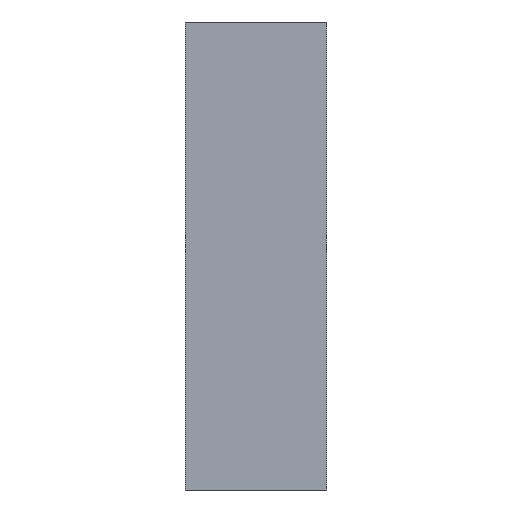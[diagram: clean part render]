
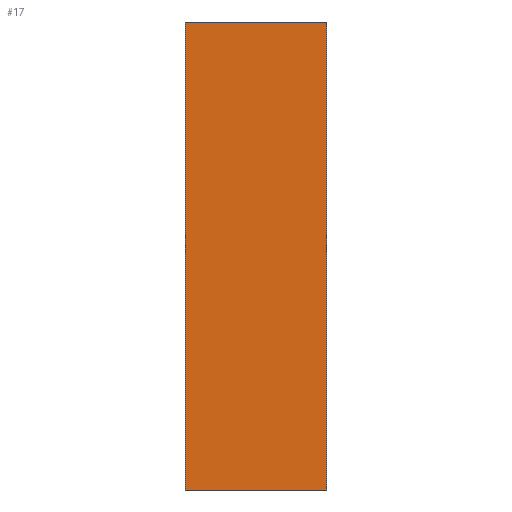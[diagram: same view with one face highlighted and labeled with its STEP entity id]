
A CAD part, left-side view. The second image highlights one B-rep face of the part: STEP entity #17.
In plain terms, the highlighted planar face has unit normal (-1, 0, 0).
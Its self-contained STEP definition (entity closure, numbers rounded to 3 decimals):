
#17 = ADVANCED_FACE('',(#18),#32,.F.);
#18 = FACE_BOUND('',#19,.F.);
#19 = EDGE_LOOP('',(#20,#55,#83,#111));
#20 = ORIENTED_EDGE('',*,*,#21,.F.);
#21 = EDGE_CURVE('',#22,#24,#26,.T.);
#22 = VERTEX_POINT('',#23);
#23 = CARTESIAN_POINT('',(-18.,16.3,-35.));
#24 = VERTEX_POINT('',#25);
#25 = CARTESIAN_POINT('',(-18.,16.3,-13.));
#26 = SURFACE_CURVE('',#27,(#31,#43),.PCURVE_S1.);
#27 = LINE('',#28,#29);
#28 = CARTESIAN_POINT('',(-18.,16.3,-35.));
#29 = VECTOR('',#30,1.);
#30 = DIRECTION('',(0.,0.,1.));
#31 = PCURVE('',#32,#37);
#32 = PLANE('',#33);
#33 = AXIS2_PLACEMENT_3D('',#34,#35,#36);
#34 = CARTESIAN_POINT('',(-18.,16.3,-35.));
#35 = DIRECTION('',(1.,0.,0.));
#36 = DIRECTION('',(0.,0.,1.));
#37 = DEFINITIONAL_REPRESENTATION('',(#38),#42);
#38 = LINE('',#39,#40);
#39 = CARTESIAN_POINT('',(0.,0.));
#40 = VECTOR('',#41,1.);
#41 = DIRECTION('',(1.,0.));
#42 = ( GEOMETRIC_REPRESENTATION_CONTEXT(2) 
PARAMETRIC_REPRESENTATION_CONTEXT() REPRESENTATION_CONTEXT('2D SPACE',''
  ) );
#43 = PCURVE('',#44,#49);
#44 = PLANE('',#45);
#45 = AXIS2_PLACEMENT_3D('',#46,#47,#48);
#46 = CARTESIAN_POINT('',(-18.,16.3,-35.));
#47 = DIRECTION('',(0.,1.,0.));
#48 = DIRECTION('',(0.,0.,1.));
#49 = DEFINITIONAL_REPRESENTATION('',(#50),#54);
#50 = LINE('',#51,#52);
#51 = CARTESIAN_POINT('',(0.,0.));
#52 = VECTOR('',#53,1.);
#53 = DIRECTION('',(1.,0.));
#54 = ( GEOMETRIC_REPRESENTATION_CONTEXT(2) 
PARAMETRIC_REPRESENTATION_CONTEXT() REPRESENTATION_CONTEXT('2D SPACE',''
  ) );
#55 = ORIENTED_EDGE('',*,*,#56,.T.);
#56 = EDGE_CURVE('',#22,#57,#59,.T.);
#57 = VERTEX_POINT('',#58);
#58 = CARTESIAN_POINT('',(-18.,22.943,-35.));
#59 = SURFACE_CURVE('',#60,(#64,#71),.PCURVE_S1.);
#60 = LINE('',#61,#62);
#61 = CARTESIAN_POINT('',(-18.,16.3,-35.));
#62 = VECTOR('',#63,1.);
#63 = DIRECTION('',(0.,1.,0.));
#64 = PCURVE('',#32,#65);
#65 = DEFINITIONAL_REPRESENTATION('',(#66),#70);
#66 = LINE('',#67,#68);
#67 = CARTESIAN_POINT('',(0.,0.));
#68 = VECTOR('',#69,1.);
#69 = DIRECTION('',(0.,-1.));
#70 = ( GEOMETRIC_REPRESENTATION_CONTEXT(2) 
PARAMETRIC_REPRESENTATION_CONTEXT() REPRESENTATION_CONTEXT('2D SPACE',''
  ) );
#71 = PCURVE('',#72,#77);
#72 = PLANE('',#73);
#73 = AXIS2_PLACEMENT_3D('',#74,#75,#76);
#74 = CARTESIAN_POINT('',(-18.,16.3,-35.));
#75 = DIRECTION('',(0.,0.,1.));
#76 = DIRECTION('',(1.,0.,0.));
#77 = DEFINITIONAL_REPRESENTATION('',(#78),#82);
#78 = LINE('',#79,#80);
#79 = CARTESIAN_POINT('',(0.,0.));
#80 = VECTOR('',#81,1.);
#81 = DIRECTION('',(0.,1.));
#82 = ( GEOMETRIC_REPRESENTATION_CONTEXT(2) 
PARAMETRIC_REPRESENTATION_CONTEXT() REPRESENTATION_CONTEXT('2D SPACE',''
  ) );
#83 = ORIENTED_EDGE('',*,*,#84,.T.);
#84 = EDGE_CURVE('',#57,#85,#87,.T.);
#85 = VERTEX_POINT('',#86);
#86 = CARTESIAN_POINT('',(-18.,22.943,-13.));
#87 = SURFACE_CURVE('',#88,(#92,#99),.PCURVE_S1.);
#88 = LINE('',#89,#90);
#89 = CARTESIAN_POINT('',(-18.,22.943,-35.));
#90 = VECTOR('',#91,1.);
#91 = DIRECTION('',(0.,0.,1.));
#92 = PCURVE('',#32,#93);
#93 = DEFINITIONAL_REPRESENTATION('',(#94),#98);
#94 = LINE('',#95,#96);
#95 = CARTESIAN_POINT('',(0.,-6.643));
#96 = VECTOR('',#97,1.);
#97 = DIRECTION('',(1.,0.));
#98 = ( GEOMETRIC_REPRESENTATION_CONTEXT(2) 
PARAMETRIC_REPRESENTATION_CONTEXT() REPRESENTATION_CONTEXT('2D SPACE',''
  ) );
#99 = PCURVE('',#100,#105);
#100 = PLANE('',#101);
#101 = AXIS2_PLACEMENT_3D('',#102,#103,#104);
#102 = CARTESIAN_POINT('',(-18.,22.943,-35.));
#103 = DIRECTION('',(0.,1.,0.));
#104 = DIRECTION('',(0.,0.,1.));
#105 = DEFINITIONAL_REPRESENTATION('',(#106),#110);
#106 = LINE('',#107,#108);
#107 = CARTESIAN_POINT('',(0.,0.));
#108 = VECTOR('',#109,1.);
#109 = DIRECTION('',(1.,0.));
#110 = ( GEOMETRIC_REPRESENTATION_CONTEXT(2) 
PARAMETRIC_REPRESENTATION_CONTEXT() REPRESENTATION_CONTEXT('2D SPACE',''
  ) );
#111 = ORIENTED_EDGE('',*,*,#112,.F.);
#112 = EDGE_CURVE('',#24,#85,#113,.T.);
#113 = SURFACE_CURVE('',#114,(#118,#125),.PCURVE_S1.);
#114 = LINE('',#115,#116);
#115 = CARTESIAN_POINT('',(-18.,16.3,-13.));
#116 = VECTOR('',#117,1.);
#117 = DIRECTION('',(0.,1.,0.));
#118 = PCURVE('',#32,#119);
#119 = DEFINITIONAL_REPRESENTATION('',(#120),#124);
#120 = LINE('',#121,#122);
#121 = CARTESIAN_POINT('',(22.,0.));
#122 = VECTOR('',#123,1.);
#123 = DIRECTION('',(0.,-1.));
#124 = ( GEOMETRIC_REPRESENTATION_CONTEXT(2) 
PARAMETRIC_REPRESENTATION_CONTEXT() REPRESENTATION_CONTEXT('2D SPACE',''
  ) );
#125 = PCURVE('',#126,#131);
#126 = PLANE('',#127);
#127 = AXIS2_PLACEMENT_3D('',#128,#129,#130);
#128 = CARTESIAN_POINT('',(-18.,16.3,-13.));
#129 = DIRECTION('',(0.,0.,1.));
#130 = DIRECTION('',(1.,0.,0.));
#131 = DEFINITIONAL_REPRESENTATION('',(#132),#136);
#132 = LINE('',#133,#134);
#133 = CARTESIAN_POINT('',(0.,0.));
#134 = VECTOR('',#135,1.);
#135 = DIRECTION('',(0.,1.));
#136 = ( GEOMETRIC_REPRESENTATION_CONTEXT(2) 
PARAMETRIC_REPRESENTATION_CONTEXT() REPRESENTATION_CONTEXT('2D SPACE',''
  ) );
